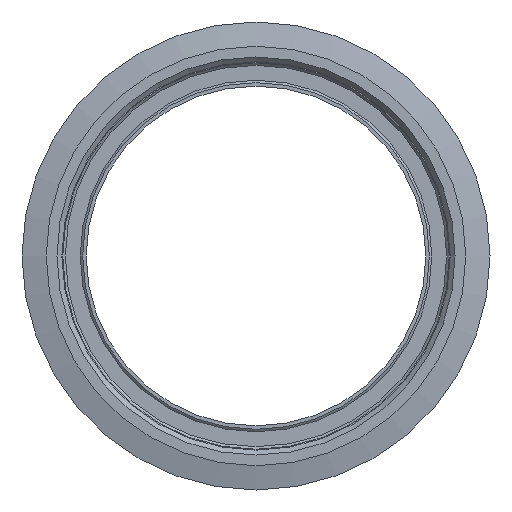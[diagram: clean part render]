
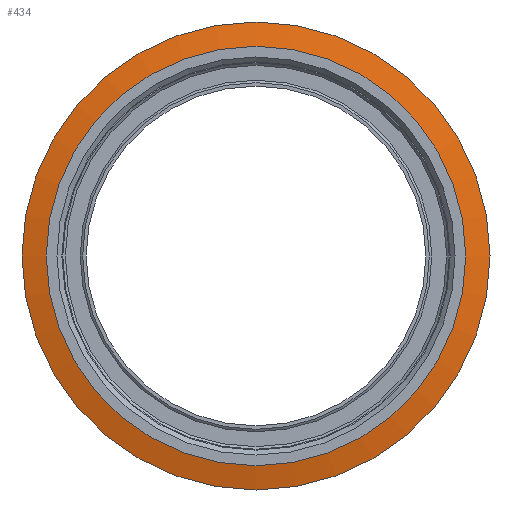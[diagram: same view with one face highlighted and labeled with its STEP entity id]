
A CAD part, left-side view. The second image highlights one B-rep face of the part: STEP entity #434.
In plain terms, the highlighted conical face has half-angle 77 degrees and reference radius 64 mm.
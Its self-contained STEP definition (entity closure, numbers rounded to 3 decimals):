
#21=CONICAL_SURFACE($,#498,64.,77.);
#56=FACE_BOUND($,#154,.T.);
#97=FACE_OUTER_BOUND($,#153,.T.);
#153=EDGE_LOOP($,(#353));
#154=EDGE_LOOP($,(#354));
#214=CIRCLE($,#496,60.5);
#216=CIRCLE($,#499,67.5);
#254=VERTEX_POINT($,#756);
#256=VERTEX_POINT($,#761);
#294=EDGE_CURVE($,#254,#254,#214,.T.);
#296=EDGE_CURVE($,#256,#256,#216,.T.);
#353=ORIENTED_EDGE($,*,*,#296,.F.);
#354=ORIENTED_EDGE($,*,*,#294,.T.);
#434=ADVANCED_FACE($,(#97,#56),#21,.T.);
#496=AXIS2_PLACEMENT_3D($,#757,#613,#614);
#498=AXIS2_PLACEMENT_3D($,#760,#617,#618);
#499=AXIS2_PLACEMENT_3D($,#762,#619,#620);
#613=DIRECTION('center_axis',(1.,0.,0.));
#614=DIRECTION('ref_axis',(0.,1.,0.));
#617=DIRECTION('center_axis',(1.,0.,0.));
#618=DIRECTION('ref_axis',(0.,1.,0.));
#619=DIRECTION('center_axis',(1.,0.,0.));
#620=DIRECTION('ref_axis',(0.,1.,0.));
#756=CARTESIAN_POINT('',(4.384,60.5,0.));
#757=CARTESIAN_POINT('Origin',(4.384,0.,0.));
#760=CARTESIAN_POINT('Origin',(5.192,0.,0.));
#761=CARTESIAN_POINT('',(6.,67.5,0.));
#762=CARTESIAN_POINT('Origin',(6.,0.,0.));
